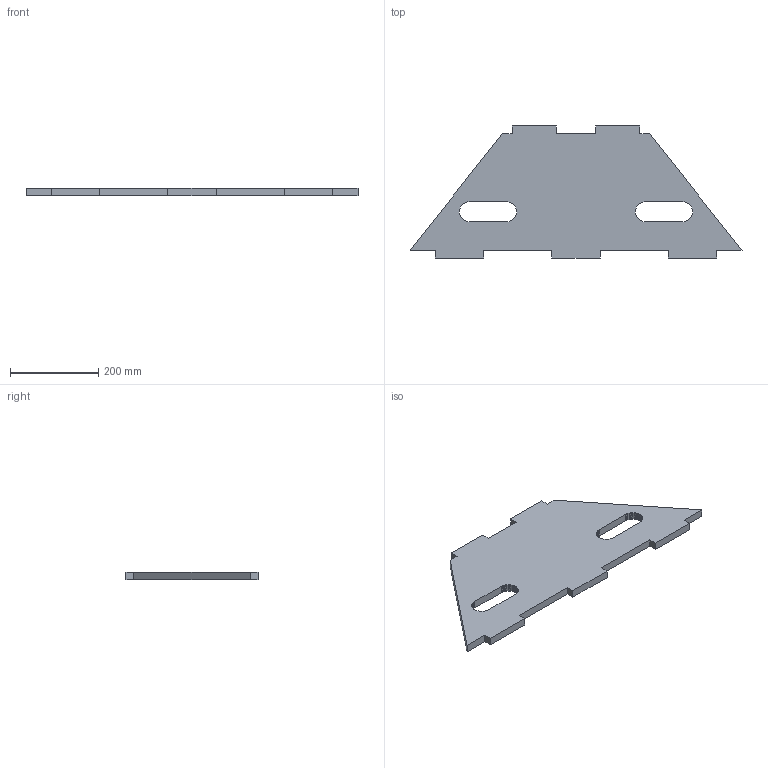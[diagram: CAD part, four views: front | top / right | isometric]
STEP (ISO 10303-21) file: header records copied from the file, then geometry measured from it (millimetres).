
FILE_DESCRIPTION(('Open CASCADE Model'),'2;1');
FILE_NAME('Open CASCADE Shape Model','2026-09-27T09:04:20',('Author'),( 'Open CASCADE'),'Open CASCADE STEP processor 7.9','Open CASCADE 7.9' ,'Unknown');
FILE_SCHEMA(('AUTOMOTIVE_DESIGN { 1 0 10303 214 1 1 1 1 }'));
Length unit declared in the file: millimetre
Products named in the file (1): Open CASCADE STEP translator 7.9 4
Bounding box: 754 x 300 x 18 mm (x, y, z)
Volume: 2562013.7 mm3; surface area: 330842 mm2
Topology: 1 solids, 1 shells, 126 faces, 372 edges, 248 vertices
Faces by surface type: plane 126
Entity records: 8570 total; most frequent: CARTESIAN_POINT 1891, DIRECTION 970, ORIENTED_EDGE 744, PCURVE 744, DEFINITIONAL_REPRESENTATION 744, LINE 716, VECTOR 716, B_SPLINE_CURVE_WITH_KNOTS 400
